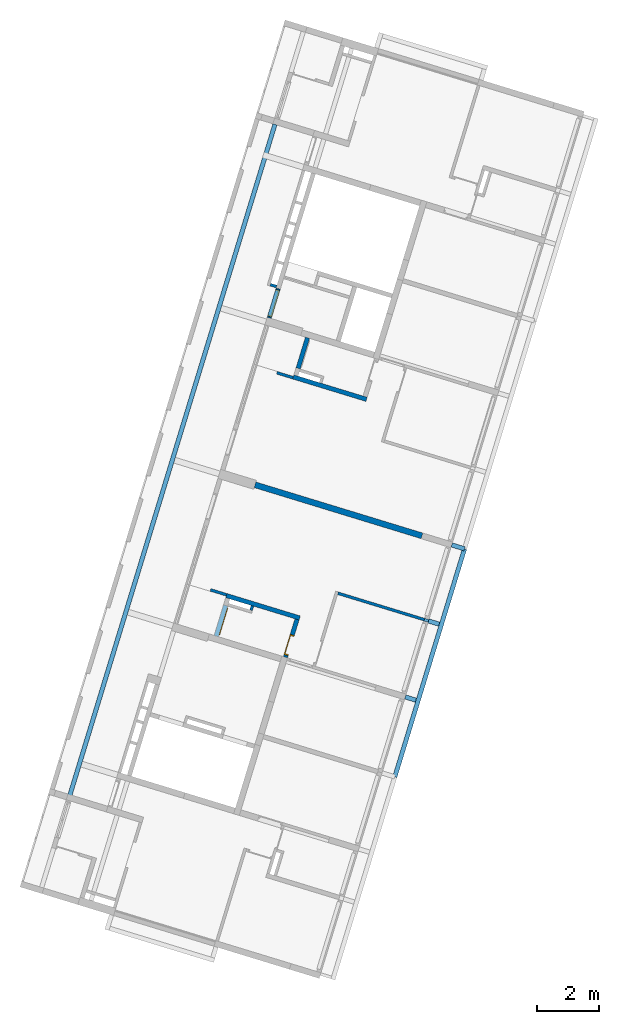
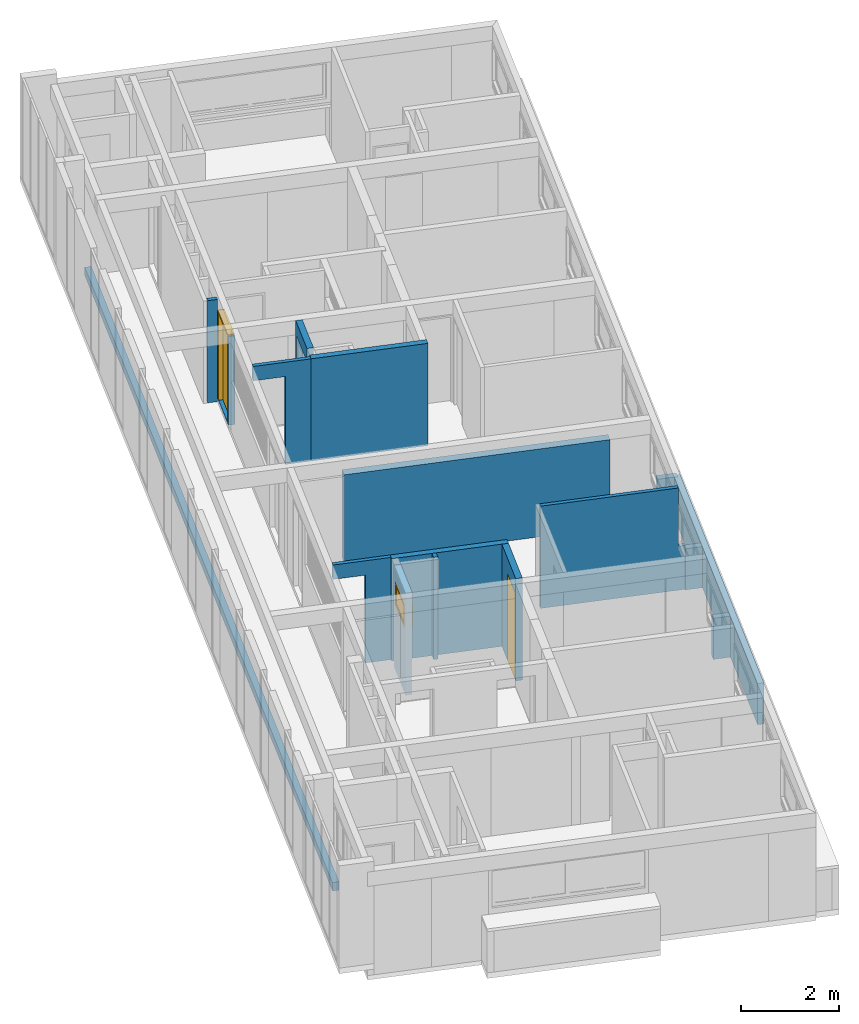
# One storey, part 13 of 18: 16 walls, 2 doors, 1 window, 6 openings, plus 1 element that does not belong to this part.
"""IFC2X3 building model written with IfcOpenShell, lengths in millimetres."""

from ifc_helpers import new_model, entity, si_unit, converted_unit, derived_unit, money_unit, direction, frame, origin_with_axes, place, context, subcontext, project, spatial, open_shell, faceted_brep, surface_model, material, type_object, element, fill, save


model = new_model("IFC2X3")

# Units and contexts
model_context = context("Model", 3, precision=0.01, world=origin_with_axes(), true_north=direction((0.0, 1.0)))
body_context = subcontext(model_context, "Body", "Model", "MODEL_VIEW")
ifc_project = project(units=[si_unit("LENGTHUNIT", "METRE", prefix="MILLI"), si_unit("AREAUNIT", "SQUARE_METRE"), si_unit("VOLUMEUNIT", "CUBIC_METRE"), converted_unit("PLANEANGLEUNIT", "DEGREE", entity("IfcPlaneAngleMeasure", 0.0174532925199), si_unit("PLANEANGLEUNIT", "RADIAN"), dimensions=[0, 0, 0, 0, 0, 0, 0]), money_unit("USD"), converted_unit("TIMEUNIT", "Year", entity("IfcTimeMeasure", 31556926.0), si_unit("TIMEUNIT", "SECOND"), dimensions=[0, 0, 1, 0, 0, 0, 0]), si_unit("MASSUNIT", "GRAM", prefix="KILO"), si_unit("THERMODYNAMICTEMPERATUREUNIT", "DEGREE_CELSIUS"), si_unit("LUMINOUSINTENSITYUNIT", "LUMEN"), si_unit("ENERGYUNIT", "JOULE", prefix="MEGA"), derived_unit("THERMALCONDUCTANCEUNIT", [(si_unit("POWERUNIT", "WATT"), 1), (si_unit("LENGTHUNIT", "METRE"), -1), (si_unit("THERMODYNAMICTEMPERATUREUNIT", "KELVIN"), -1)]), derived_unit("SPECIFICHEATCAPACITYUNIT", [(si_unit("ENERGYUNIT", "JOULE"), 1), (si_unit("MASSUNIT", "GRAM", prefix="KILO"), -1), (si_unit("THERMODYNAMICTEMPERATUREUNIT", "KELVIN"), -1)]), derived_unit("MASSDENSITYUNIT", [(si_unit("MASSUNIT", "GRAM", prefix="KILO"), 1), (si_unit("VOLUMEUNIT", "CUBIC_METRE"), -1)])], contexts=[model_context])

# Site, building, storey
site_placement = place(None, frame((0.0, 0.0, 0.0), z_axis=(0.0, 0.0, 1.0), x_axis=(0.956304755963, -0.292371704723, 0.0)))
site = spatial("IfcSite", under=ifc_project, at=site_placement, Name="Site", CompositionType="ELEMENT")
building_placement = place(site_placement, origin_with_axes())
building = spatial("IfcBuilding", under=site, at=building_placement, Name="Building", CompositionType="ELEMENT")
storey_placement = place(building_placement, origin_with_axes())
storey = spatial("IfcBuildingStorey", under=building, at=storey_placement, Name="Pavimento tipo", CompositionType="ELEMENT", Elevation=0.0)

# Wall
ifc_material = material(Name="Tijolo - Estrutural")
wall_type_1 = type_object("IfcWallType", Name="Tijolo - Estrutural 90", PredefinedType="NOTDEFINED")
wall_1_placement = place(storey_placement, frame((1341.71158345, 20784.9980348, -100.0), z_axis=(0.0, 0.0, 1.0), x_axis=(1.0, 0.0, 0.0)))
element("IfcWall", 1, at=wall_1_placement, inside=storey, type_object=wall_type_1, material=ifc_material, Name="Parede 52", context=body_context, shape_type="Brep", body=[
    faceted_brep([(299.999357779, 90.0, 2560.0), (299.999357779, 0.0, 2560.0), (299.999357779, 0.0, 80.0), (299.999357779, 0.0, 0.0), (299.999357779, 90.0, 0.0), (89.9999859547, 90.0, 2560.0), (90.0, 0.0, 2560.0), (90.0, 0.0, 0.0), (89.9999859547, 90.0, 0.0)], [[[0, 1, 2, 3, 4]], [[5, 6, 1, 0]], [[6, 7, 3, 2, 1]], [[7, 8, 4, 3]], [[5, 0, 4, 8]], [[7, 6, 5, 8]]]),
])

# Space
space_1_placement = place(storey_placement, frame((2841.71096673, 14639.9999947, 0.0), z_axis=(0.0, 0.0, 1.0), x_axis=(1.0, 1.43937078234e-07, 0.0)))
space_1 = spatial("IfcSpace", under=storey, at=space_1_placement, Name="03", CompositionType="ELEMENT", InteriorOrExteriorSpace="INTERNAL")

# Wall, opening
wall_2_placement = place(space_1_placement, frame((-1129.9994797, 3502.82905365, 0.0), z_axis=(0.0, 0.0, 1.0), x_axis=(1.0, -1.43937083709e-07, 0.0)))
wall_2 = element("IfcWall", 2, at=wall_2_placement, inside=space_1, type_object=wall_type_1, material=ifc_material, Name="Apt 03 - Parede 31", context=body_context, shape_type="Brep", body=[
    faceted_brep([(750.0, 90.0, 0.0), (750.0, 90.0, 2200.0), (70.0, 90.0, 2200.0), (70.0024654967, 90.0, 2560.0), (1290.0024655, 90.0, 2560.0), (1290.0024655, 90.0, 0.0), (750.0, 0.0, 2200.0), (750.0, 0.0, 0.0), (70.0, 0.0, 2200.0), (70.0024654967, 0.0, 2560.0), (1290.0024655, 0.0, 2560.0), (1290.0024655, 0.0, 0.0)], [[[0, 1, 2, 3, 4, 5]], [[6, 1, 0, 7]], [[8, 2, 1, 6]], [[3, 2, 8, 9]], [[4, 3, 9, 10]], [[10, 11, 5, 4]], [[11, 7, 0, 5]], [[8, 6, 7, 11, 10, 9]]]),
])
opening_1_placement = place(wall_2_placement, frame((410.0, 0.0, 0.0), z_axis=(0.0, 0.0, 1.0), x_axis=(1.0, 0.0, 0.0)))
element("IfcOpeningElement", 3, at=opening_1_placement, cuts=wall_2, Name="Apt 03 - Vão 02", context=body_context, shape_type="Brep", body=[
    faceted_brep([(340.0, 0.0, 0.0), (340.0, 0.0, 2200.0), (340.0, -1.0, 2200.0), (340.0, -1.0, 0.0), (340.0, 91.0, 0.0), (340.0, 91.0, 2200.0), (-340.0, 0.0, 2200.0), (-340.0, -1.0, 2200.0), (-340.0, -1.0, 0.0), (-340.0, 0.0, 0.0), (-340.0, 91.0, 0.0), (-340.0, 91.0, 2200.0)], [[[0, 1, 2, 3]], [[1, 0, 4, 5]], [[1, 6, 7, 2]], [[8, 3, 2, 7]], [[9, 0, 3, 8]], [[0, 9, 10, 4]], [[5, 4, 10, 11]], [[6, 1, 5, 11]], [[6, 9, 8, 7]], [[9, 6, 11, 10]]]),
])

# Space
space_2_placement = place(storey_placement, frame((2841.71099896, 14449.9999947, 0.0), z_axis=(0.0, 0.0, 1.0), x_axis=(6.32291681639e-07, -1.0, 0.0)))
space_2 = spatial("IfcSpace", under=storey, at=space_2_placement, Name="02", CompositionType="ELEMENT", InteriorOrExteriorSpace="INTERNAL")

# Wall
wall_3_placement = place(space_2_placement, frame((3880.00069411, 1100.00008209, 0.0), z_axis=(0.0, 0.0, 1.0), x_axis=(-1.0, 2.70061266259e-07, 0.0)))
element("IfcWall", 4, at=wall_3_placement, inside=space_2, type_object=wall_type_1, material=ifc_material, Name="Apt 02 - Parede 37", context=body_context, shape_type="Brep", body=[
    faceted_brep([(237.171445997, 90.0, 0.0), (237.171445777, 0.0, 0.0), (90.0, 0.0, 0.0), (90.0000326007, 90.0, 0.0), (237.171445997, 90.0, 2560.0), (237.171445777, 0.0, 2560.0), (90.0, 0.0, 2560.0), (90.0000326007, 90.0, 2560.0)], [[[0, 1, 2, 3]], [[1, 0, 4, 5]], [[1, 5, 6, 2]], [[7, 3, 2, 6]], [[4, 0, 3, 7]], [[5, 4, 7, 6]]]),
])

# Wall, opening
wall_4_placement = place(space_2_placement, frame((3502.82817651, -1130.00223093, 0.0), z_axis=(0.0, 0.0, 1.0), x_axis=(6.32291676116e-07, 1.0, 0.0)))
wall_4 = element("IfcWall", 5, at=wall_4_placement, inside=space_2, type_object=wall_type_1, material=ifc_material, Name="Apt 02 - Parede 31", context=body_context, shape_type="Brep", body=[
    faceted_brep([(750.0, 0.0, 0.0), (750.0, 0.0, 2200.0), (70.0, 0.0, 2200.0), (70.0024654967, 0.0, 2560.0), (1290.0024655, 0.0, 2560.0), (1290.0024655, 0.0, 0.0), (750.0, -90.0, 2200.0), (750.0, -90.0, 0.0), (70.0, -90.0, 2200.0), (70.0024654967, -90.0, 2560.0), (1290.0024655, -90.0, 2560.0), (1290.0024655, -90.0, 0.0)], [[[0, 1, 2, 3, 4, 5]], [[6, 1, 0, 7]], [[8, 2, 1, 6]], [[3, 2, 8, 9]], [[4, 3, 9, 10]], [[10, 11, 5, 4]], [[11, 7, 0, 5]], [[8, 6, 7, 11, 10, 9]]]),
])
opening_2_placement = place(wall_4_placement, frame((410.0, 0.0, 0.0), z_axis=(0.0, 0.0, 1.0), x_axis=(1.0, 0.0, 0.0)))
element("IfcOpeningElement", 6, at=opening_2_placement, cuts=wall_4, Name="Apt 02 - Vão 02", context=body_context, shape_type="Brep", body=[
    faceted_brep([(-340.0, 0.0, 2200.0), (340.0, 0.0, 2200.0), (340.0, 1.0, 2200.0), (-340.0, 1.00000000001, 2200.0), (-340.0, -91.0, 2200.0), (340.0, -91.0, 2200.0), (340.0, 0.0, 0.0), (340.0, 1.0, 0.0), (-340.0, 1.00000000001, 0.0), (-340.0, 0.0, 0.0), (-340.0, -91.0, 0.0), (340.0, -91.0, 0.0)], [[[0, 1, 2, 3]], [[1, 0, 4, 5]], [[1, 6, 7, 2]], [[7, 8, 3, 2]], [[9, 0, 3, 8]], [[0, 9, 10, 4]], [[4, 10, 11, 5]], [[6, 1, 5, 11]], [[6, 9, 8, 7]], [[9, 6, 11, 10]]]),
])

# Walls
wall_5_placement = place(space_2_placement, frame((2409.98691235, 3514.99845515, 0.0), z_axis=(0.0, 0.0, 1.0), x_axis=(1.25914948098e-06, 0.999999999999, 0.0)))
element("IfcWall", 7, at=wall_5_placement, inside=space_2, type_object=wall_type_1, material=ifc_material, Name="Apt 02 - Parede 33", context=body_context, shape_type="Brep", body=[
    faceted_brep([(45.0000633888, -90.0, 2560.0), (2945.00272147, -90.0, 2560.0), (2945.00266407, 0.0, 2560.0), (45.0000069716, 0.0, 2560.0), (2945.00252684, -90.0, 1100.0), (45.0000633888, -90.0, 0.0), (3085.00247042, -90.0, 0.0), (3085.00252684, -90.0, 1100.0), (2945.00247042, 0.0, 1100.0), (3085.00247042, 0.0, 1100.0), (3085.00247042, 0.0, 0.0), (45.0000069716, 0.0, 0.0)], [[[0, 1, 2, 3]], [[4, 1, 0, 5, 6, 7]], [[8, 2, 1, 4]], [[3, 2, 8, 9, 10, 11]], [[11, 5, 0, 3]], [[6, 5, 11, 10]], [[6, 10, 9, 7]], [[8, 4, 7, 9]]]),
])
wall_type_2 = type_object("IfcWallType", Name="Tijolo - Estrutural 140", PredefinedType="NOTDEFINED")
wall_6_placement = place(storey_placement, frame((9441.71344835, 14545.0001284, 0.0), z_axis=(0.0, 0.0, 1.0), x_axis=(0.999999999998, 1.90765485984e-06, 0.0)))
element("IfcWall", 8, at=wall_6_placement, inside=storey, type_object=wall_type_2, material=ifc_material, Name="Parede 48", context=body_context, shape_type="Brep", body=[
    faceted_brep([(0.000133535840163, 69.9999999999, 1030.0), (-0.000133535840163, -69.9999999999, 1030.0), (427.893683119, -70.0008162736, 1030.0), (427.893950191, 69.9991837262, 1030.0), (0.000133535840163, 69.9999999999, 0.0), (-0.000133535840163, -69.9999999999, 0.0), (427.893683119, -70.0008162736, 0.0), (427.893950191, 69.9991837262, 0.0)], [[[0, 1, 2, 3]], [[4, 5, 1, 0]], [[1, 5, 6, 2]], [[7, 3, 2, 6]], [[4, 0, 3, 7]], [[5, 4, 7, 6]]]),
])
wall_7_placement = place(storey_placement, frame((9941.71344835, 6895.01530486, 0.0), z_axis=(0.0, 0.0, 1.0), x_axis=(0.0, 1.0, 0.0)))
element("IfcWall", 9, at=wall_7_placement, inside=storey, type_object=wall_type_2, material=ifc_material, Name="Apt 02 - Parede 68", context=body_context, shape_type="Brep", body=[
    faceted_brep([(0.0, 0.0, 1030.0), (7649.99465026, 0.0, 1030.0), (7649.99465026, 140.0, 1030.0), (0.0, 140.0, 1030.0), (0.0, 0.0, 0.0), (7649.99465026, 0.0, 0.0), (7649.99465026, 140.0, 0.0), (0.0, 140.0, 0.0)], [[[0, 1, 2, 3]], [[4, 5, 1, 0]], [[2, 1, 5, 6]], [[3, 2, 6, 7]], [[4, 0, 3, 7]], [[7, 6, 5, 4]]]),
])

# Space
space_3_placement = place(storey_placement, frame((1641.71094123, 19800.0000381, 0.0), z_axis=(0.0, 0.0, 1.0), x_axis=(1.0, -4.87759542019e-08, 0.0)))
space_3 = spatial("IfcSpace", under=storey, at=space_3_placement, Name="06", CompositionType="ELEMENT", InteriorOrExteriorSpace="INTERNAL")

# Wall, opening, door
wall_8_placement = place(space_3_placement, frame((140.0, -3.79797953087e-05, -20.0), z_axis=(0.0, 0.0, 1.0), x_axis=(-4.877595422e-08, 1.0, 0.0)))
wall_8 = element("IfcWall", 10, at=wall_8_placement, inside=space_3, type_object=wall_type_2, material=ifc_material, Name="Parede 79", context=body_context, shape_type="Brep", body=[
    faceted_brep([(942.499020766, 139.997492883, 2220.0), (942.499020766, -0.0025071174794, 2220.0), (984.998041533, -0.0025071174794, 2220.0), (984.998041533, 139.997492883, 2220.0), (942.499020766, 0.0, 20.0), (942.499020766, 140.0, 20.0), (42.4990207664, 0.0, 20.0), (42.4990207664, -0.00250711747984, 2220.0), (0.0, -0.00250711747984, 2220.0), (0.0, 0.0, 0.0), (984.998041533, 0.0, 0.0), (984.998041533, 140.0, 0.0), (0.0, 140.0, 0.0), (0.0, 139.997492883, 2220.0), (42.4990207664, 139.997492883, 2220.0), (42.4990207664, 140.0, 20.0)], [[[0, 1, 2, 3]], [[4, 1, 0, 5]], [[6, 7, 8, 9, 10, 2, 1, 4]], [[11, 3, 2, 10]], [[5, 0, 3, 11, 12, 13, 14, 15]], [[6, 4, 5, 15]], [[14, 7, 6, 15]], [[7, 14, 13, 8]], [[9, 8, 13, 12]], [[11, 10, 9, 12]]]),
])
opening_3_placement = place(wall_8_placement, frame((492.499020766, 0.0, 20.0), z_axis=(0.0, 0.0, 1.0), x_axis=(1.0, 0.0, 0.0)))
opening_3 = element("IfcOpeningElement", 11, at=opening_3_placement, cuts=wall_8, Name="Porta 12", context=body_context, shape_type="Brep", body=[
    faceted_brep([(-450.0, -1.0, 2220.0), (-450.0, -1.0, 0.0), (450.0, -1.0, 0.0), (450.0, -1.0, 2220.0), (-450.0, 141.0, 2220.0), (-450.0, 141.0, 0.0), (450.0, 141.0, 0.0), (450.0, 141.0, 2220.0)], [[[0, 1, 2, 3]], [[4, 5, 1, 0]], [[5, 6, 2, 1]], [[6, 7, 3, 2]], [[7, 4, 0, 3]], [[6, 5, 4, 7]]]),
])
door_style_1 = type_object("IfcDoorStyle", Name="Door 26", ConstructionType="NOTDEFINED", OperationType="SINGLE_SWING_RIGHT", ParameterTakesPrecedence=False, Sizeable=False)
door_1_placement = place(opening_3_placement, frame((400.0, 0.0, 0.0), z_axis=(0.0, 0.0, 1.0), x_axis=(-1.0, 0.0, 0.0)))
door_1 = element("IfcDoor", 12, at=door_1_placement, inside=space_3, type_object=door_style_1, Name="Porta 12", OverallHeight=2220.0, OverallWidth=900.0, context=body_context, shape_type="Brep", body=[
    faceted_brep([(0.0, -50.0, 0.0), (0.0, -50.0, 2170.0), (0.0, -140.0, 2170.0), (0.0, -140.0, 0.0), (-30.0, -50.0, 2170.0), (-30.0, -50.0, 0.0), (-30.0, 0.0, 2170.0), (-50.0, 0.0, 2170.0), (-50.0, -140.0, 2170.0), (-50.0, -140.0, 0.0), (-50.0, 0.0, 0.0), (-30.0, 0.0, 0.0)], [[[0, 1, 2, 3]], [[4, 1, 0, 5]], [[4, 6, 7, 8, 2, 1]], [[3, 2, 8, 9]], [[5, 0, 3, 9, 10, 11]], [[6, 4, 5, 11]], [[6, 11, 10, 7]], [[10, 9, 8, 7]]]),
    faceted_brep([(830.0, -50.0, 2170.0), (800.0, -50.0, 2170.0), (800.0, -140.0, 2170.0), (850.0, -140.0, 2170.0), (850.0, 0.0, 2170.0), (830.0, 0.0, 2170.0), (830.0, -50.0, 0.0), (800.0, -50.0, 0.0), (800.0, -140.0, 0.0), (850.0, -140.0, 0.0), (850.0, 0.0, 0.0), (830.0, 0.0, 0.0)], [[[0, 1, 2, 3, 4, 5]], [[1, 0, 6, 7]], [[1, 7, 8, 2]], [[3, 2, 8, 9]], [[4, 3, 9, 10]], [[11, 5, 4, 10]], [[0, 5, 11, 6]], [[6, 11, 10, 9, 8, 7]]]),
    faceted_brep([(-30.0, 0.0, 2200.0), (-30.0, 0.0, 2170.0), (-50.0, 0.0, 2170.0), (-50.0, 0.0, 2220.0), (850.0, 0.0, 2220.0), (850.0, 0.0, 2170.0), (830.0, 0.0, 2170.0), (830.0, 0.0, 2200.0), (-30.0, -50.0, 2200.0), (-30.0, -50.0, 2170.0), (0.0, -50.0, 2170.0), (0.0, -140.0, 2170.0), (-50.0, -140.0, 2170.0), (-50.0, -140.0, 2220.0), (850.0, -140.0, 2220.0), (850.0, -140.0, 2170.0), (830.0, -50.0, 2170.0), (800.0, -140.0, 2170.0), (800.0, -50.0, 2170.0), (830.0, -50.0, 2200.0)], [[[0, 1, 2, 3, 4, 5, 6, 7]], [[1, 0, 8, 9]], [[9, 10, 11, 12, 2, 1]], [[2, 12, 13, 3]], [[3, 13, 14, 4]], [[4, 14, 15, 5]], [[16, 6, 5, 15, 17, 18]], [[7, 6, 16, 19]], [[0, 7, 19, 8]], [[16, 18, 10, 9, 8, 19]], [[10, 18, 17, 11]], [[17, 15, 14, 13, 12, 11]]]),
    faceted_brep([(830.0, 0.0, 0.0), (830.0, -50.0, 0.0), (-30.0, -50.0, 0.0), (-30.0, 0.0, 0.0), (830.0, 0.0, 2200.0), (830.0, -50.0, 2200.0), (-30.0, -50.0, 2200.0), (-30.0, 0.0, 2200.0)], [[[0, 1, 2, 3]], [[4, 5, 1, 0]], [[1, 5, 6, 2]], [[3, 2, 6, 7]], [[0, 3, 7, 4]], [[7, 6, 5, 4]]]),
])
fill(opening_3, door_1)

# Wall
wall_9_placement = place(space_1_placement, frame((160.002985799, 3502.82886797, 0.0), z_axis=(0.0, 0.0, 1.0), x_axis=(1.0, -5.03720957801e-07, 0.0)))
element("IfcWall", 13, at=wall_9_placement, inside=space_1, type_object=wall_type_2, material=ifc_material, Name="Apt 03 - Parede 32", context=body_context, shape_type="Brep", body=[
    faceted_brep([(-5.03697430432e-05, 140.0, 0.0), (2459.99654035, 140.0, 0.0), (2459.99648008, 0.0, 0.0), (0.0, 0.0, 0.0), (-5.03697430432e-05, 140.0, 2560.0), (2459.99654035, 140.0, 2560.0), (2459.99648008, 0.0, 2560.0), (0.0, 0.0, 2560.0)], [[[0, 1, 2, 3]], [[4, 5, 1, 0]], [[6, 2, 1, 5]], [[3, 2, 6, 7]], [[7, 4, 0, 3]], [[7, 6, 5, 4]]]),
])

# Wall, opening
wall_10_placement = place(space_1_placement, frame((160.003040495, 3882.82886797, 0.0), z_axis=(0.0, 0.0, 1.0), x_axis=(1.43937078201e-07, 1.0, 0.0)))
wall_10 = element("IfcWall", 14, at=wall_10_placement, inside=space_1, type_object=wall_type_2, material=ifc_material, Name="Apt 03 - Parede 35", context=body_context, shape_type="Brep", body=[
    faceted_brep([(1027.16114859, 0.0, 2560.0), (1027.17110758, 0.0, 0.0), (0.0, 0.0, 0.0), (0.0, 0.0, 2560.0), (73.5855537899, 0.0, 1630.0), (953.58555379, 0.0, 1630.0), (953.58555379, 0.0, 2220.0), (73.5855537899, 0.0, 2220.0), (1027.16114859, -140.0, 2560.0), (1027.17110758, -140.0, 0.0), (0.0, -140.0, 0.0), (0.0, -140.0, 2560.0), (73.5855537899, -140.0, 1630.0), (953.58555379, -140.0, 1630.0), (953.58555379, -140.0, 2220.0), (73.5855537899, -140.0, 2220.0)], [[[0, 1, 2, 3], [4, 5, 6, 7]], [[0, 8, 9, 1]], [[2, 1, 9, 10]], [[3, 2, 10, 11]], [[8, 0, 3, 11]], [[12, 13, 5, 4]], [[13, 14, 6, 5]], [[14, 15, 7, 6]], [[15, 12, 4, 7]], [[8, 11, 10, 9], [12, 15, 14, 13]]]),
])
opening_4_placement = place(wall_10_placement, frame((513.58555379, 0.0, 1630.0), z_axis=(0.0, 0.0, 1.0), x_axis=(1.0, 0.0, 0.0)))
element("IfcOpeningElement", 15, at=opening_4_placement, cuts=wall_10, Name="Apt 03 - J13", context=body_context, shape_type="Brep", body=[
    faceted_brep([(-440.0, -140.0, 590.0), (440.0, -140.0, 590.0), (440.0, 1.0, 590.0), (-440.0, 1.0, 590.0), (-455.0, -140.0, -15.0), (-455.0, -140.0, 605.0), (455.0, -140.0, 605.0), (455.0, -140.0, -15.0), (440.0, -140.0, 0.0), (-440.0, -140.0, 0.0), (440.0, 1.0, 0.0), (-440.0, 1.0, 0.0), (-455.0, -141.0, -15.0), (-455.0, -141.0, 605.0), (455.0, -141.0, 605.0), (455.0, -141.0, -15.0)], [[[0, 1, 2, 3]], [[4, 5, 6, 7], [8, 1, 0, 9]], [[1, 8, 10, 2]], [[10, 11, 3, 2]], [[9, 0, 3, 11]], [[5, 4, 12, 13]], [[6, 5, 13, 14]], [[7, 6, 14, 15]], [[4, 7, 15, 12]], [[8, 9, 11, 10]], [[14, 13, 12, 15]]]),
])

# Space
space_4_placement = place(storey_placement, frame((-458.28928681, 3300.00204517, 0.0), z_axis=(0.0, 0.0, 1.0), x_axis=(1.0, 0.0, 0.0)))
space_4 = spatial("IfcSpace", under=storey, at=space_4_placement, Name="05", CompositionType="ELEMENT", InteriorOrExteriorSpace="INTERNAL")

# Walls
wall_11_placement = place(space_4_placement, frame((459.924637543, -94.9903827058, -100.0), z_axis=(0.0, 0.0, 1.0), x_axis=(3.57141179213e-06, 0.999999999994, 0.0)))
element("IfcWall", 16, at=wall_11_placement, inside=space_4, type_object=wall_type_2, material=ifc_material, Name="Parede 69", context=body_context, shape_type="Brep", body=[
    faceted_brep([(22584.9778507, -140.0, 210.0), (22584.9777128, 0.0, 210.0), (0.0, 0.0, 210.0), (0.0, -140.0, 210.0), (22584.9778507, -140.0, 0.0), (22584.9777128, 0.0, 0.0), (0.0, 0.0, 0.0), (0.0, -140.0, 0.0)], [[[0, 1, 2, 3]], [[1, 0, 4, 5]], [[1, 5, 6, 2]], [[7, 3, 2, 6]], [[4, 0, 3, 7]], [[5, 4, 7, 6]]]),
])
wall_12_placement = place(space_2_placement, frame((3502.82899217, 160.000234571, 0.0), z_axis=(0.0, 0.0, 1.0), x_axis=(2.72507802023e-07, 1.0, 0.0)))
element("IfcWall", 17, at=wall_12_placement, inside=space_2, type_object=wall_type_2, material=ifc_material, Name="Apt 02 - Parede 32", context=body_context, shape_type="Brep", body=[
    faceted_brep([(-5.03697434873e-05, -140.0, 2560.0), (2459.99654035, -140.000885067, 2560.0), (2459.99648008, -0.000885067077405, 2560.0), (0.0, 0.0, 2560.0), (-5.03697434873e-05, -140.0, 0.0), (2459.99654035, -140.000885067, 0.0), (2459.99648008, -0.000885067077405, 0.0), (0.0, 0.0, 0.0)], [[[0, 1, 2, 3]], [[4, 5, 1, 0]], [[6, 2, 1, 5]], [[3, 2, 6, 7]], [[7, 4, 0, 3]], [[7, 6, 5, 4]]]),
])
wall_13_placement = place(space_2_placement, frame((5004.99837978, 6599.99866152, 0.0), z_axis=(0.0, 0.0, 1.0), x_axis=(1.4119817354e-05, 0.9999999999, 0.0)))
element("IfcWall", 18, at=wall_13_placement, inside=space_2, type_object=wall_type_2, material=ifc_material, Name="Apt 02 - Parede 46", context=body_context, shape_type="Brep", body=[
    faceted_brep([(357.894440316, -70.0, 0.0), (0.0, -70.0, 0.0), (0.0, 70.0, 0.0), (357.894440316, 70.0, 0.0), (357.894440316, -70.0, 1030.0), (0.0, -70.0, 1030.0), (0.0, 70.0, 1030.0), (357.894440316, 70.0, 1030.0)], [[[0, 1, 2, 3]], [[4, 5, 1, 0]], [[1, 5, 6, 2]], [[3, 2, 6, 7]], [[7, 4, 0, 3]], [[7, 6, 5, 4]]]),
])

# Wall, opening, window
wall_14_placement = place(space_2_placement, frame((3882.82899217, 159.999994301, 0.0), z_axis=(0.0, 0.0, 1.0), x_axis=(1.0, -6.32291681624e-07, 0.0)))
wall_14 = element("IfcWall", 19, at=wall_14_placement, inside=space_2, type_object=wall_type_2, material=ifc_material, Name="Apt 02 - Parede 35", context=body_context, shape_type="Brep", body=[
    faceted_brep([(1027.18099953, 0.0, 2560.0), (0.0, 0.0, 2560.0), (0.0, 0.0, 0.0), (1027.17110758, 0.0, 0.0), (953.58555379, 0.0, 1630.0), (73.5855537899, 0.0, 1630.0), (73.5855537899, 0.0, 2220.0), (953.58555379, 0.0, 2220.0), (1027.18100114, 140.0, 2560.0), (0.0, 140.0, 2560.0), (0.0, 140.0, 0.0), (1027.17110758, 140.0, 0.0), (953.58555379, 140.0, 1630.0), (73.5855537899, 140.0, 1630.0), (73.5855537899, 140.0, 2220.0), (953.58555379, 140.0, 2220.0)], [[[0, 1, 2, 3], [4, 5, 6, 7]], [[0, 8, 9, 1]], [[2, 1, 9, 10]], [[10, 11, 3, 2]], [[8, 0, 3, 11]], [[12, 13, 5, 4]], [[13, 14, 6, 5]], [[14, 15, 7, 6]], [[15, 12, 4, 7]], [[8, 11, 10, 9], [12, 15, 14, 13]]]),
])
opening_5_placement = place(wall_14_placement, frame((513.58555379, 0.0, 1630.0), z_axis=(0.0, 0.0, 1.0), x_axis=(1.0, 0.0, 0.0)))
opening_5 = element("IfcOpeningElement", 20, at=opening_5_placement, cuts=wall_14, Name="Apt 02 - J13", context=body_context, shape_type="Brep", body=[
    faceted_brep([(440.0, 140.0, 590.0), (-440.0, 140.0, 590.0), (-440.0, -1.0, 590.0), (440.0, -1.0, 590.0), (-455.0, 140.0, 605.0), (-455.0, 140.0, -15.0), (455.0, 140.0, -15.0), (455.0, 140.0, 605.0), (-440.0, 140.0, 0.0), (440.0, 140.0, 0.0), (-440.0, -1.0, 0.0), (440.0, -1.0, 0.0), (-455.0, 141.0, 605.0), (-455.0, 141.0, -15.0), (455.0, 141.0, -15.0), (455.0, 141.0, 605.0)], [[[0, 1, 2, 3]], [[4, 5, 6, 7], [8, 1, 0, 9]], [[1, 8, 10, 2]], [[10, 11, 3, 2]], [[9, 0, 3, 11]], [[5, 4, 12, 13]], [[6, 5, 13, 14]], [[7, 6, 14, 15]], [[4, 7, 15, 12]], [[8, 9, 11, 10]], [[14, 13, 12, 15]]]),
])
window_style = type_object("IfcWindowStyle", Name="Janela 26", ConstructionType="NOTDEFINED", OperationType="SINGLE_PANEL", ParameterTakesPrecedence=False, Sizeable=False)
window_placement = place(opening_5_placement, frame((440.0, 0.0, 0.0), z_axis=(0.0, 0.0, 1.0), x_axis=(-1.0, 0.0, 0.0)))
window = element("IfcWindow", 21, at=window_placement, inside=space_2, type_object=window_style, Name="Apt 02 - J13", OverallHeight=590.0, OverallWidth=880.0, context=body_context, shape_type="SurfaceModel", body=[
    faceted_brep([(0.0, -50.0, 0.0), (880.0, -50.0, 0.0), (880.0, -140.0, 0.0), (0.0, -140.0, 0.0), (0.0, -50.0, 590.0), (880.0, -50.0, 590.0), (25.0, -50.0, 25.0), (855.0, -50.0, 25.0), (855.0, -50.0, 565.0), (25.0, -50.0, 565.0), (880.0, -140.0, 590.0), (0.0, -140.0, 590.0), (25.0, -140.0, 25.0), (25.0, -140.0, 565.0), (855.0, -140.0, 565.0), (855.0, -140.0, 25.0)], [[[0, 1, 2, 3]], [[0, 4, 5, 1], [6, 7, 8, 9]], [[1, 5, 10, 2]], [[3, 2, 10, 11], [12, 13, 14, 15]], [[4, 0, 3, 11]], [[5, 4, 11, 10]], [[7, 6, 12, 15]], [[8, 7, 15, 14]], [[9, 8, 14, 13]], [[6, 9, 13, 12]]]),
    faceted_brep([(-15.0, -165.0, -15.0), (-15.0, -140.0, -15.0), (25.0, -140.0, 25.0), (25.0, -165.0, 25.0), (-15.0, -165.0, 605.0), (-15.0, -140.0, 605.0), (25.0, -140.0, 565.0), (25.0, -165.0, 565.0)], [[[0, 1, 2, 3]], [[4, 5, 1, 0]], [[1, 5, 6, 2]], [[3, 2, 6, 7]], [[0, 3, 7, 4]], [[7, 6, 5, 4]]]),
    faceted_brep([(895.0, -165.0, 605.0), (895.0, -140.0, 605.0), (855.0, -140.0, 565.0), (855.0, -165.0, 565.0), (895.0, -165.0, -15.0), (895.0, -140.0, -15.0), (855.0, -140.0, 25.0), (855.0, -165.0, 25.0)], [[[0, 1, 2, 3]], [[4, 5, 1, 0]], [[1, 5, 6, 2]], [[3, 2, 6, 7]], [[0, 3, 7, 4]], [[7, 6, 5, 4]]]),
    faceted_brep([(895.0, -165.0, -15.0), (895.0, -140.0, -15.0), (855.0, -140.0, 25.0), (855.0, -165.0, 25.0), (-15.0, -165.0, -15.0), (-15.0, -140.0, -15.0), (25.0, -140.0, 25.0), (25.0, -165.0, 25.0)], [[[0, 1, 2, 3]], [[4, 5, 1, 0]], [[1, 5, 6, 2]], [[3, 2, 6, 7]], [[0, 3, 7, 4]], [[7, 6, 5, 4]]]),
    faceted_brep([(-15.0, -165.0, 605.0), (-15.0, -140.0, 605.0), (25.0, -140.0, 565.0), (25.0, -165.0, 565.0), (895.0, -165.0, 605.0), (895.0, -140.0, 605.0), (855.0, -140.0, 565.0), (855.0, -165.0, 565.0)], [[[0, 1, 2, 3]], [[4, 5, 1, 0]], [[1, 5, 6, 2]], [[3, 2, 6, 7]], [[0, 3, 7, 4]], [[7, 6, 5, 4]]]),
    faceted_brep([(65.0, -50.0, 525.0), (65.0, 0.0, 525.0), (0.0, 0.0, 525.0), (0.0, -50.0, 525.0), (65.0, -50.0, 65.0), (65.0, 0.0, 65.0), (0.0, 0.0, 65.0), (0.0, -50.0, 65.0)], [[[0, 1, 2, 3]], [[4, 5, 1, 0]], [[1, 5, 6, 2]], [[3, 2, 6, 7]], [[0, 3, 7, 4]], [[7, 6, 5, 4]]]),
    faceted_brep([(815.0, -50.0, 65.0), (815.0, 0.0, 65.0), (880.0, 0.0, 65.0), (880.0, -50.0, 65.0), (815.0, -50.0, 525.0), (815.0, 0.0, 525.0), (880.0, 0.0, 525.0), (880.0, -50.0, 525.0)], [[[0, 1, 2, 3]], [[4, 5, 1, 0]], [[1, 5, 6, 2]], [[3, 2, 6, 7]], [[0, 3, 7, 4]], [[7, 6, 5, 4]]]),
    faceted_brep([(65.0, -50.0, 65.0), (65.0, 0.0, 65.0), (0.0, 0.0, 65.0), (0.0, -50.0, 65.0), (815.0, -50.0, 65.0), (815.0, 0.0, 65.0), (880.0, 0.0, 65.0), (880.0, 0.0, 0.0), (0.0, 0.0, 0.0), (0.0, -50.0, 0.0), (880.0, -50.0, 0.0), (880.0, -50.0, 65.0)], [[[0, 1, 2, 3]], [[4, 5, 1, 0]], [[1, 5, 6, 7, 8, 2]], [[3, 2, 8, 9]], [[0, 3, 9, 10, 11, 4]], [[11, 6, 5, 4]], [[10, 7, 6, 11]], [[9, 8, 7, 10]]]),
    faceted_brep([(815.0, -50.0, 525.0), (815.0, 0.0, 525.0), (880.0, 0.0, 525.0), (880.0, -50.0, 525.0), (65.0, -50.0, 525.0), (65.0, 0.0, 525.0), (0.0, 0.0, 525.0), (0.0, 0.0, 590.0), (880.0, 0.0, 590.0), (880.0, -50.0, 590.0), (0.0, -50.0, 590.0), (0.0, -50.0, 525.0)], [[[0, 1, 2, 3]], [[4, 5, 1, 0]], [[1, 5, 6, 7, 8, 2]], [[3, 2, 8, 9]], [[0, 3, 9, 10, 11, 4]], [[11, 6, 5, 4]], [[10, 7, 6, 11]], [[9, 8, 7, 10]]]),
    surface_model("IfcShellBasedSurfaceModel", [(65.0, -35.0, 65.0), (815.0, -35.0, 65.0), (815.0, -35.0, 525.0), (65.0, -35.0, 525.0)], [open_shell([[[0, 1, 2, 3]]])]),
    surface_model("IfcShellBasedSurfaceModel", [(65.0, -15.0, 65.0), (65.0, -15.0, 525.0), (815.0, -15.0, 525.0), (815.0, -15.0, 65.0)], [open_shell([[[0, 1, 2, 3]]])]),
])
fill(opening_5, window)

# Wall, opening, door
wall_15_placement = place(space_2_placement, frame((3502.82966254, 2619.99671465, 0.0), z_axis=(0.0, 0.0, 1.0), x_axis=(1.0, 1.58009284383e-07, 0.0)))
wall_15 = element("IfcWall", 22, at=wall_15_placement, inside=space_2, type_object=wall_type_2, material=ifc_material, Name="Apt 02 - Parede 39", context=body_context, shape_type="Brep", body=[
    faceted_brep([(1337.17199265, -6.31761301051e-05, 0.0), (1337.17199265, 0.0, 2170.0), (657.171992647, 0.0, 2170.0), (657.171992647, -2.72917555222e-05, 0.0), (140.0, 0.0, 0.0), (140.0, 0.0, 2560.0), (1407.15668908, 0.0, 2560.0), (1407.15668908, 0.0, 2200.0), (1407.18195447, -6.68706361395e-05, 2200.0), (1407.18195447, -6.68706361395e-05, 0.0), (1337.17199265, -140.0, 0.0), (1337.17199265, -140.0, 2170.0), (657.171992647, -140.0, 2170.0), (657.171992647, -140.0, 0.0), (139.999939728, -140.0, 0.0), (139.999939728, -140.0, 2560.0), (1407.15668908, -140.0, 2560.0), (1407.15668908, -140.0, 2200.0), (1407.18184383, -140.0, 2200.0), (1407.18184383, -140.0, 0.0)], [[[0, 1, 2, 3, 4, 5, 6, 7, 8, 9]], [[1, 0, 10, 11]], [[2, 1, 11, 12]], [[3, 2, 12, 13]], [[3, 13, 14, 4]], [[14, 15, 5, 4]], [[5, 15, 16, 6]], [[16, 17, 7, 6]], [[18, 8, 7, 17]], [[9, 8, 18, 19]], [[10, 0, 9, 19]], [[11, 10, 19, 18, 17, 16, 15, 14, 13, 12]]]),
])
opening_6_placement = place(wall_15_placement, frame((997.171992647, 0.0, 0.0), z_axis=(0.0, 0.0, 1.0), x_axis=(1.0, 0.0, 0.0)))
opening_6 = element("IfcOpeningElement", 23, at=opening_6_placement, cuts=wall_15, Name="Apt 02 - Porta 09", context=body_context, shape_type="Brep", body=[
    faceted_brep([(-340.0, -141.001112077, 2170.0), (-340.0, -141.001112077, 0.0), (340.0, -141.001112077, 0.0), (340.0, -141.001112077, 2170.0), (-340.0, 1.00111207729, 2170.0), (-340.0, 1.00111207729, 0.0), (340.0, 1.00111207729, 0.0), (340.0, 1.00111207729, 2170.0)], [[[0, 1, 2, 3]], [[4, 5, 1, 0]], [[5, 6, 2, 1]], [[6, 7, 3, 2]], [[7, 4, 0, 3]], [[6, 5, 4, 7]]]),
])
door_style_2 = type_object("IfcDoorStyle", Name="Door 26", ConstructionType="NOTDEFINED", OperationType="SINGLE_SWING_LEFT", ParameterTakesPrecedence=False, Sizeable=False)
door_2_placement = place(opening_6_placement, frame((340.0, 0.0, 0.0), z_axis=(0.0, 0.0, 1.0), x_axis=(-1.0, 0.0, 0.0)))
door_2 = element("IfcDoor", 24, at=door_2_placement, inside=space_2, type_object=door_style_2, Name="Apt 02 - Porta 09", OverallHeight=2170.0, OverallWidth=680.0, context=body_context, shape_type="Brep", body=[
    faceted_brep([(640.0, 110.0, 0.0), (640.0, 0.0, 0.0), (640.0, 0.0, 2130.0), (640.0, 110.0, 2130.0), (650.0, 110.0, 0.0), (650.0, 140.0, 0.0), (680.0, 140.0, 0.0), (680.0, 0.0, 0.0), (680.0, 0.0, 2130.0), (650.0, 110.0, 2130.0), (680.0, 140.0, 2130.0), (650.0, 140.0, 2130.0)], [[[0, 1, 2, 3]], [[4, 5, 6, 7, 1, 0]], [[1, 7, 8, 2]], [[9, 3, 2, 8, 10, 11]], [[9, 4, 0, 3]], [[11, 5, 4, 9]], [[11, 10, 6, 5]], [[6, 10, 8, 7]]]),
    faceted_brep([(30.0, 110.0, 2130.0), (30.0, 140.0, 2130.0), (0.0, 140.0, 2130.0), (0.0, 0.0, 2130.0), (40.0, 0.0, 2130.0), (40.0, 110.0, 2130.0), (30.0, 110.0, 0.0), (30.0, 140.0, 0.0), (0.0, 140.0, 0.0), (0.0, 0.0, 0.0), (40.0, 0.0, 0.0), (40.0, 110.0, 0.0)], [[[0, 1, 2, 3, 4, 5]], [[0, 6, 7, 1]], [[7, 8, 2, 1]], [[2, 8, 9, 3]], [[3, 9, 10, 4]], [[5, 4, 10, 11]], [[5, 11, 6, 0]], [[6, 11, 10, 9, 8, 7]]]),
    faceted_brep([(650.0, 140.0, 2140.0), (30.0, 140.0, 2140.0), (30.0, 140.0, 2130.0), (0.0, 140.0, 2130.0), (0.0, 140.0, 2170.0), (680.0, 140.0, 2170.0), (680.0, 140.0, 2130.0), (650.0, 140.0, 2130.0), (650.0, 110.0, 2140.0), (30.0, 110.0, 2140.0), (30.0, 110.0, 2130.0), (40.0, 110.0, 2130.0), (40.0, 0.0, 2130.0), (0.0, 0.0, 2130.0), (0.0, 0.0, 2170.0), (680.0, 0.0, 2170.0), (680.0, 0.0, 2130.0), (650.0, 110.0, 2130.0), (640.0, 0.0, 2130.0), (640.0, 110.0, 2130.0)], [[[0, 1, 2, 3, 4, 5, 6, 7]], [[0, 8, 9, 1]], [[1, 9, 10, 2]], [[10, 11, 12, 13, 3, 2]], [[4, 3, 13, 14]], [[5, 4, 14, 15]], [[6, 5, 15, 16]], [[17, 7, 6, 16, 18, 19]], [[7, 17, 8, 0]], [[10, 9, 8, 17, 19, 11]], [[19, 18, 12, 11]], [[12, 18, 16, 15, 14, 13]]]),
    faceted_brep([(30.0, 140.0, 0.0), (650.0, 140.0, 0.0), (650.0, 110.0, 0.0), (30.0, 110.0, 0.0), (30.0, 140.0, 2140.0), (650.0, 140.0, 2140.0), (650.0, 110.0, 2140.0), (30.0, 110.0, 2140.0)], [[[0, 1, 2, 3]], [[0, 4, 5, 1]], [[1, 5, 6, 2]], [[3, 2, 6, 7]], [[4, 0, 3, 7]], [[5, 4, 7, 6]]]),
])
fill(opening_6, door_2)

# Walls
wall_16_placement = place(space_2_placement, frame((2454.98886297, 6600.00089711, 0.0), z_axis=(0.0, 0.0, 1.0), x_axis=(6.32291681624e-07, 1.0, 0.0)))
element("IfcWall", 25, at=wall_16_placement, inside=space_2, type_object=wall_type_2, material=ifc_material, Name="Apt 02 - Parede 47", context=body_context, shape_type="Brep", body=[
    faceted_brep([(360.0, 70.0, 0.0), (360.0, -70.0, 0.0), (0.0, -70.0, 0.0), (0.0, 70.0, 0.0), (360.0, 70.0, 1030.0), (360.0, -70.0, 1030.0), (0.0, -70.0, 1030.0), (0.0, 70.0, 1030.0)], [[[0, 1, 2, 3]], [[1, 0, 4, 5]], [[1, 5, 6, 2]], [[7, 3, 2, 6]], [[4, 0, 3, 7]], [[5, 4, 7, 6]]]),
])
wall_type_3 = type_object("IfcWallType", Name="Tijolo - Estrutural 190", PredefinedType="NOTDEFINED")
wall_17_placement = place(storey_placement, frame((2841.71098285, 14544.9999947, 0.0), z_axis=(0.0, 0.0, 1.0), x_axis=(1.0, 1.69639234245e-07, 0.0)))
element("IfcWall", 26, at=wall_17_placement, inside=storey, type_object=wall_type_3, material=ifc_material, Name="Parede 65", context=body_context, shape_type="Brep", body=[
    faceted_brep([(-1.61157274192e-05, -95.0, 2200.0), (5600.00244938, -95.0109103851, 2200.0), (5600.00248161, 94.9890896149, 2200.0), (1.61157269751e-05, 95.0, 2200.0), (-1.61157274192e-05, -95.0, 0.0), (5600.00244938, -95.0109103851, 0.0), (5600.00248161, 94.9890896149, 0.0), (1.61157269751e-05, 95.0, 0.0)], [[[0, 1, 2, 3]], [[4, 5, 1, 0]], [[5, 6, 2, 1]], [[3, 2, 6, 7]], [[7, 4, 0, 3]], [[7, 6, 5, 4]]]),
])

save(model, "model.ifc")
